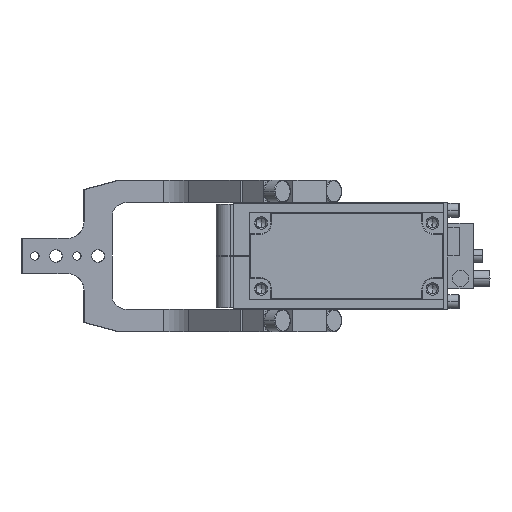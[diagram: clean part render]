
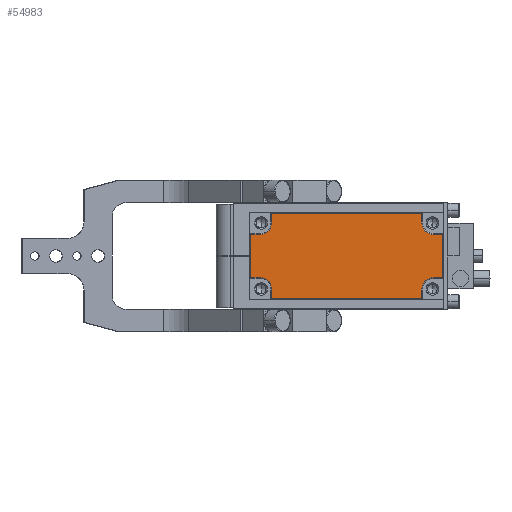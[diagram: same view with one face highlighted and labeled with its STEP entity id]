
A CAD part, left-side view. The second image highlights one B-rep face of the part: STEP entity #54983.
In plain terms, the highlighted planar face has unit normal (-1, 0, 0).
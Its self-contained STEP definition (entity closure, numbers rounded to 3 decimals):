
#660 = EDGE_CURVE ( 'NONE', #56483, #26067, #7275, .T. ) ;
#1113 = VECTOR ( 'NONE', #24957, 1000. ) ;
#1235 = VERTEX_POINT ( 'NONE', #18802 ) ;
#2537 = VERTEX_POINT ( 'NONE', #67247 ) ;
#3213 = ORIENTED_EDGE ( 'NONE', *, *, #25557, .T. ) ;
#4793 = DIRECTION ( 'NONE',  ( 0., -1., 0. ) ) ;
#5251 = CARTESIAN_POINT ( 'NONE',  ( -385.112, 34.93, 15.5 ) ) ;
#6115 = VECTOR ( 'NONE', #28739, 1000. ) ;
#6336 = ORIENTED_EDGE ( 'NONE', *, *, #660, .T. ) ;
#6403 = VERTEX_POINT ( 'NONE', #54511 ) ;
#6568 = CIRCLE ( 'NONE', #64624, 8. ) ;
#7275 = CIRCLE ( 'NONE', #69355, 8. ) ;
#7415 = VERTEX_POINT ( 'NONE', #22453 ) ;
#8209 = ORIENTED_EDGE ( 'NONE', *, *, #34895, .T. ) ;
#8570 = ORIENTED_EDGE ( 'NONE', *, *, #54758, .T. ) ;
#9298 = ORIENTED_EDGE ( 'NONE', *, *, #43426, .T. ) ;
#10059 = CARTESIAN_POINT ( 'NONE',  ( -385.112, 27.93, -15.5 ) ) ;
#10313 = VERTEX_POINT ( 'NONE', #50474 ) ;
#10719 = VECTOR ( 'NONE', #26879, 1000. ) ;
#12362 = VERTEX_POINT ( 'NONE', #80057 ) ;
#12719 = VERTEX_POINT ( 'NONE', #19450 ) ;
#12883 = AXIS2_PLACEMENT_3D ( 'NONE', #61613, #55186, #47981 ) ;
#13693 = FACE_OUTER_BOUND ( 'NONE', #75708, .T. ) ;
#14238 = DIRECTION ( 'NONE',  ( 0., 0., 1. ) ) ;
#14515 = LINE ( 'NONE', #74357, #29065 ) ;
#14517 = EDGE_CURVE ( 'NONE', #1235, #37210, #26960, .T. ) ;
#15228 = CARTESIAN_POINT ( 'NONE',  ( -385.112, 18.43, 15.5 ) ) ;
#17048 = DIRECTION ( 'NONE',  ( 1., 0., 0. ) ) ;
#17614 = DIRECTION ( 'NONE',  ( 1., 0., 0. ) ) ;
#18752 = CARTESIAN_POINT ( 'NONE',  ( -385.112, -87.07, 23.5 ) ) ;
#18802 = CARTESIAN_POINT ( 'NONE',  ( -385.112, 19.93, 23.5 ) ) ;
#19450 = CARTESIAN_POINT ( 'NONE',  ( -385.112, -87.07, -23.5 ) ) ;
#19990 = ORIENTED_EDGE ( 'NONE', *, *, #43027, .T. ) ;
#20471 = CARTESIAN_POINT ( 'NONE',  ( -385.112, -87.07, 0. ) ) ;
#21876 = DIRECTION ( 'NONE',  ( 0., 1., 0. ) ) ;
#22453 = CARTESIAN_POINT ( 'NONE',  ( -385.112, -102.07, 15.5 ) ) ;
#23722 = LINE ( 'NONE', #39205, #63082 ) ;
#24383 = CARTESIAN_POINT ( 'NONE',  ( -385.112, 19.93, 0. ) ) ;
#24957 = DIRECTION ( 'NONE',  ( 0., 0., -1. ) ) ;
#25557 = EDGE_CURVE ( 'NONE', #26910, #6403, #68952, .T. ) ;
#26067 = VERTEX_POINT ( 'NONE', #18752 ) ;
#26879 = DIRECTION ( 'NONE',  ( 0., 0., 1. ) ) ;
#26910 = VERTEX_POINT ( 'NONE', #49000 ) ;
#26960 = CIRCLE ( 'NONE', #12883, 8. ) ;
#27399 = DIRECTION ( 'NONE',  ( 0., -1., 0. ) ) ;
#27805 = LINE ( 'NONE', #41196, #6115 ) ;
#28337 = CARTESIAN_POINT ( 'NONE',  ( -385.112, 18.43, 30.5 ) ) ;
#28739 = DIRECTION ( 'NONE',  ( 0., 0., 1. ) ) ;
#29065 = VECTOR ( 'NONE', #80163, 1000. ) ;
#30775 = AXIS2_PLACEMENT_3D ( 'NONE', #66597, #53819, #14238 ) ;
#30949 = CARTESIAN_POINT ( 'NONE',  ( -385.112, -95.07, 23.5 ) ) ;
#31776 = CIRCLE ( 'NONE', #38101, 8. ) ;
#32926 = LINE ( 'NONE', #40087, #66089 ) ;
#33801 = EDGE_CURVE ( 'NONE', #37210, #78761, #84337, .T. ) ;
#34895 = EDGE_CURVE ( 'NONE', #12719, #10313, #6568, .T. ) ;
#34989 = DIRECTION ( 'NONE',  ( 0., 1., 0. ) ) ;
#36302 = CARTESIAN_POINT ( 'NONE',  ( -385.112, 34.93, -15.5 ) ) ;
#37153 = ORIENTED_EDGE ( 'NONE', *, *, #82373, .T. ) ;
#37210 = VERTEX_POINT ( 'NONE', #37529 ) ;
#37441 = CARTESIAN_POINT ( 'NONE',  ( -385.112, -87.07, 0. ) ) ;
#37529 = CARTESIAN_POINT ( 'NONE',  ( -385.112, 27.93, 15.5 ) ) ;
#37743 = EDGE_CURVE ( 'NONE', #12362, #2537, #48641, .T. ) ;
#38101 = AXIS2_PLACEMENT_3D ( 'NONE', #44333, #83450, #4793 ) ;
#39205 = CARTESIAN_POINT ( 'NONE',  ( -385.112, 18.43, -15.5 ) ) ;
#39360 = VECTOR ( 'NONE', #27399, 1000. ) ;
#40087 = CARTESIAN_POINT ( 'NONE',  ( -385.112, 18.43, -15.5 ) ) ;
#41196 = CARTESIAN_POINT ( 'NONE',  ( -385.112, -102.07, 0. ) ) ;
#42355 = LINE ( 'NONE', #50812, #51619 ) ;
#42812 = EDGE_CURVE ( 'NONE', #10313, #58837, #23722, .T. ) ;
#43027 = EDGE_CURVE ( 'NONE', #58837, #7415, #27805, .T. ) ;
#43122 = ORIENTED_EDGE ( 'NONE', *, *, #60731, .T. ) ;
#43152 = VECTOR ( 'NONE', #47882, 1000. ) ;
#43426 = EDGE_CURVE ( 'NONE', #78761, #66417, #63916, .T. ) ;
#44333 = CARTESIAN_POINT ( 'NONE',  ( -385.112, 27.93, -23.5 ) ) ;
#45820 = VECTOR ( 'NONE', #83755, 1000. ) ;
#47161 = VERTEX_POINT ( 'NONE', #59609 ) ;
#47741 = EDGE_CURVE ( 'NONE', #2537, #47161, #50788, .T. ) ;
#47882 = DIRECTION ( 'NONE',  ( 0., 0., -1. ) ) ;
#47981 = DIRECTION ( 'NONE',  ( 0., -1., 0. ) ) ;
#48641 = LINE ( 'NONE', #24383, #1113 ) ;
#49000 = CARTESIAN_POINT ( 'NONE',  ( -385.112, -87.07, 30.5 ) ) ;
#49263 = VECTOR ( 'NONE', #34989, 1000. ) ;
#50474 = CARTESIAN_POINT ( 'NONE',  ( -385.112, -95.07, -15.5 ) ) ;
#50788 = LINE ( 'NONE', #60088, #39360 ) ;
#50812 = CARTESIAN_POINT ( 'NONE',  ( -385.112, 19.93, 0. ) ) ;
#51619 = VECTOR ( 'NONE', #76615, 1000. ) ;
#53522 = PLANE ( 'NONE',  #30775 ) ;
#53819 = DIRECTION ( 'NONE',  ( -1., 0., 0. ) ) ;
#54511 = CARTESIAN_POINT ( 'NONE',  ( -385.112, 19.93, 30.5 ) ) ;
#54758 = EDGE_CURVE ( 'NONE', #26067, #26910, #63419, .T. ) ;
#54983 = ADVANCED_FACE ( 'NONE', ( #13693 ), #53522, .T. ) ;
#55186 = DIRECTION ( 'NONE',  ( 1., 0., 0. ) ) ;
#56483 = VERTEX_POINT ( 'NONE', #62263 ) ;
#57359 = VECTOR ( 'NONE', #21876, 1000. ) ;
#58290 = DIRECTION ( 'NONE',  ( 0., -1., 0. ) ) ;
#58837 = VERTEX_POINT ( 'NONE', #81060 ) ;
#58935 = ORIENTED_EDGE ( 'NONE', *, *, #70338, .T. ) ;
#59188 = DIRECTION ( 'NONE',  ( 0., -1., 0. ) ) ;
#59609 = CARTESIAN_POINT ( 'NONE',  ( -385.112, -87.07, -30.5 ) ) ;
#59711 = ORIENTED_EDGE ( 'NONE', *, *, #42812, .T. ) ;
#60088 = CARTESIAN_POINT ( 'NONE',  ( -385.112, 18.43, -30.5 ) ) ;
#60731 = EDGE_CURVE ( 'NONE', #47161, #12719, #75970, .T. ) ;
#61613 = CARTESIAN_POINT ( 'NONE',  ( -385.112, 27.93, 23.5 ) ) ;
#62263 = CARTESIAN_POINT ( 'NONE',  ( -385.112, -95.07, 15.5 ) ) ;
#62336 = ORIENTED_EDGE ( 'NONE', *, *, #82584, .T. ) ;
#63082 = VECTOR ( 'NONE', #58290, 1000. ) ;
#63419 = LINE ( 'NONE', #37441, #45820 ) ;
#63916 = LINE ( 'NONE', #75665, #43152 ) ;
#64624 = AXIS2_PLACEMENT_3D ( 'NONE', #70009, #17048, #69732 ) ;
#65941 = VERTEX_POINT ( 'NONE', #10059 ) ;
#66089 = VECTOR ( 'NONE', #59188, 1000. ) ;
#66417 = VERTEX_POINT ( 'NONE', #36302 ) ;
#66597 = CARTESIAN_POINT ( 'NONE',  ( -385.112, 18.43, 0. ) ) ;
#67247 = CARTESIAN_POINT ( 'NONE',  ( -385.112, 19.93, -30.5 ) ) ;
#67339 = ORIENTED_EDGE ( 'NONE', *, *, #47741, .T. ) ;
#68952 = LINE ( 'NONE', #28337, #49263 ) ;
#69355 = AXIS2_PLACEMENT_3D ( 'NONE', #30949, #17614, #83934 ) ;
#69732 = DIRECTION ( 'NONE',  ( 0., 0., 1. ) ) ;
#70009 = CARTESIAN_POINT ( 'NONE',  ( -385.112, -95.07, -23.5 ) ) ;
#70338 = EDGE_CURVE ( 'NONE', #7415, #56483, #14515, .T. ) ;
#71550 = ORIENTED_EDGE ( 'NONE', *, *, #33801, .T. ) ;
#73455 = ORIENTED_EDGE ( 'NONE', *, *, #14517, .T. ) ;
#74357 = CARTESIAN_POINT ( 'NONE',  ( -385.112, 18.43, 15.5 ) ) ;
#75665 = CARTESIAN_POINT ( 'NONE',  ( -385.112, 34.93, 0. ) ) ;
#75708 = EDGE_LOOP ( 'NONE', ( #59711, #19990, #58935, #6336, #8570, #3213, #37153, #73455, #71550, #9298, #62336, #83242, #85332, #67339, #43122, #8209 ) ) ;
#75970 = LINE ( 'NONE', #20471, #10719 ) ;
#76615 = DIRECTION ( 'NONE',  ( 0., 0., -1. ) ) ;
#78761 = VERTEX_POINT ( 'NONE', #5251 ) ;
#79687 = EDGE_CURVE ( 'NONE', #65941, #12362, #31776, .T. ) ;
#80057 = CARTESIAN_POINT ( 'NONE',  ( -385.112, 19.93, -23.5 ) ) ;
#80163 = DIRECTION ( 'NONE',  ( 0., 1., 0. ) ) ;
#81060 = CARTESIAN_POINT ( 'NONE',  ( -385.112, -102.07, -15.5 ) ) ;
#82373 = EDGE_CURVE ( 'NONE', #6403, #1235, #42355, .T. ) ;
#82584 = EDGE_CURVE ( 'NONE', #66417, #65941, #32926, .T. ) ;
#83242 = ORIENTED_EDGE ( 'NONE', *, *, #79687, .T. ) ;
#83450 = DIRECTION ( 'NONE',  ( 1., 0., 0. ) ) ;
#83755 = DIRECTION ( 'NONE',  ( 0., 0., 1. ) ) ;
#83934 = DIRECTION ( 'NONE',  ( 0., -1., 0. ) ) ;
#84337 = LINE ( 'NONE', #15228, #57359 ) ;
#85332 = ORIENTED_EDGE ( 'NONE', *, *, #37743, .T. ) ;
